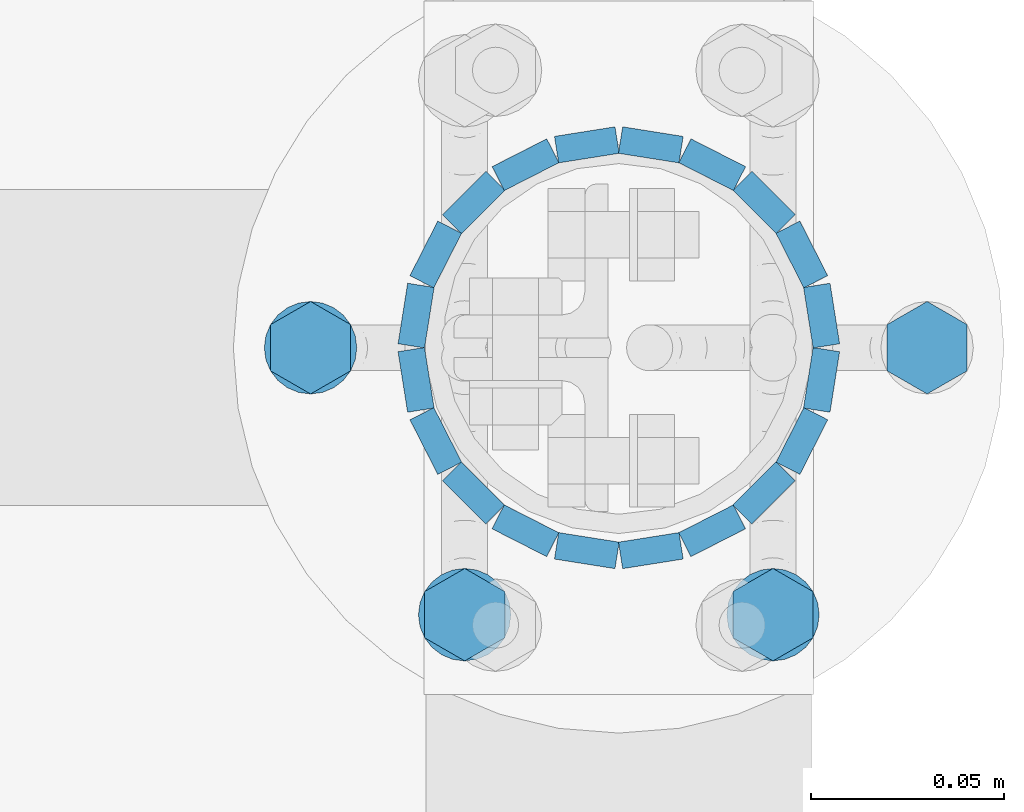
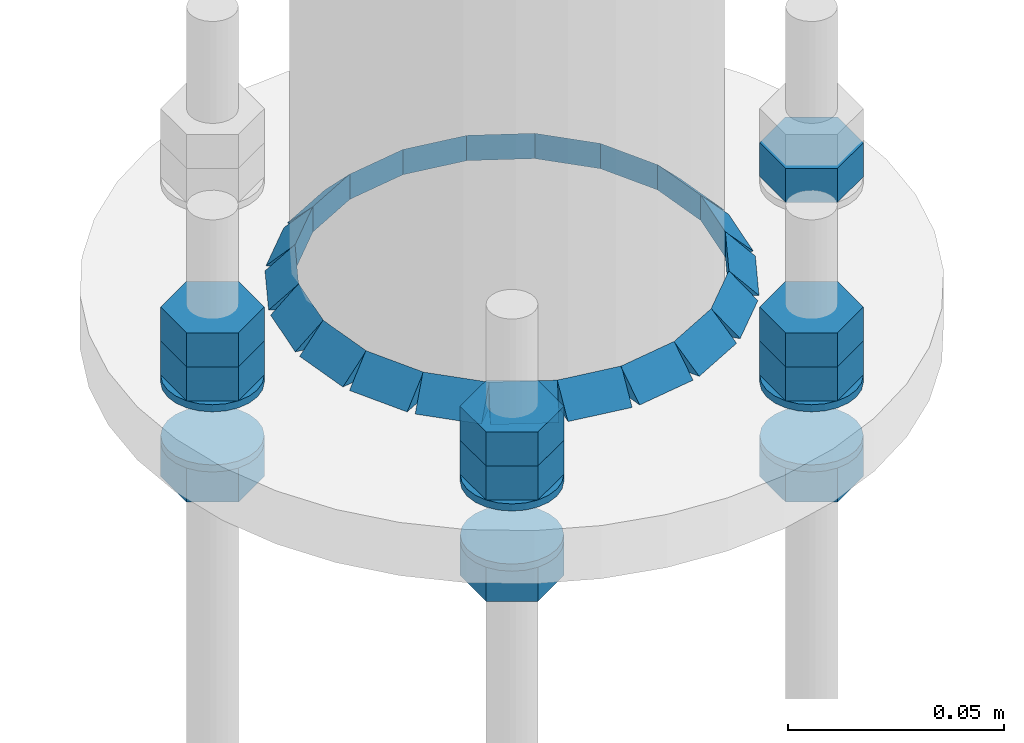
# One storey, part 20 of 84: 40 fasteners, 16 mechanical fasteners.
"""IFC4 building model written with IfcOpenShell, lengths in metres."""

from ifc_helpers import new_model, si_unit, frame, origin_with_axes, place, context, project, spatial, polyline, outline, extrude, type_object, element, save


model = new_model("IFC4")

# Units and contexts
model_context = context("Model", 3, precision=1e-05, world=origin_with_axes())
ifc_project = project(units=[si_unit("LENGTHUNIT", "METRE"), si_unit("AREAUNIT", "SQUARE_METRE"), si_unit("VOLUMEUNIT", "CUBIC_METRE"), si_unit("MASSUNIT", "GRAM", prefix="KILO"), si_unit("TIMEUNIT", "SECOND"), si_unit("PLANEANGLEUNIT", "RADIAN"), si_unit("SOLIDANGLEUNIT", "STERADIAN"), si_unit("THERMODYNAMICTEMPERATUREUNIT", "DEGREE_CELSIUS")], contexts=[model_context])

# Site, building, storey
placement_1 = place(None, origin_with_axes())
site = spatial("IfcSite", under=ifc_project, at=placement_1, Name="Italia", CompositionType="ELEMENT")
building = spatial("IfcBuilding", under=site, at=placement_1, Name="Tettoia", CompositionType="ELEMENT")
storey_placement = place(None, frame((0.0, 0.0, 4.199999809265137), z_axis=(0.0, 0.0, 1.0), x_axis=(1.0, 0.0, 0.0)))
storey = spatial("IfcBuildingStorey", under=building, at=storey_placement, Name="Storey 1", CompositionType="ELEMENT", Elevation=4.199999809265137)

# Fasteners
fastener_type_1 = type_object("IfcFastenerType", Name="Collegamento -002_0102", PredefinedType="WELD")
placement_2 = place(placement_1, origin_with_axes())
fastener_1_placement = place(placement_2, origin_with_axes())
element("IfcFastener", 1, at=fastener_1_placement, inside=storey, type_object=fastener_type_1, Name="Collegamento -002_0102", context=model_context, shape_type="SweptSolid", body=[
    extrude(outline(polyline([(0.0, 0.0), (0.00695801, 0.00717354), (0.00695801, 0.0), (0.0, 0.0)])), frame((11.3067, 2.05484, 4.01495), z_axis=(-0.987689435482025, 0.156427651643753, 0.0), x_axis=(-0.156427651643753, -0.987689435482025, 0.0)), (0.0, 0.0, 1.0), 0.0158999),
])
fastener_type_2 = type_object("IfcFastenerType", Name="Collegamento -002_0102", PredefinedType="WELD")
fastener_2_placement = place(placement_2, origin_with_axes())
element("IfcFastener", 2, at=fastener_2_placement, inside=storey, type_object=fastener_type_2, Name="Collegamento -002_0102", context=model_context, shape_type="SweptSolid", body=[
    extrude(outline(polyline([(0.0, 0.0), (0.00695801, 0.00717354), (0.00695801, 0.0), (0.0, 0.0)])), frame((11.3229, 2.04699, 4.01495), z_axis=(-0.891006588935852, 0.453990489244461, 0.0), x_axis=(-0.453990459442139, -0.891006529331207, 0.0)), (0.0, 0.0, 1.0), 0.0158998),
])
fastener_type_3 = type_object("IfcFastenerType", Name="Collegamento -002_0102", PredefinedType="WELD")
fastener_3_placement = place(placement_2, origin_with_axes())
element("IfcFastener", 3, at=fastener_3_placement, inside=storey, type_object=fastener_type_3, Name="Collegamento -002_0102", context=model_context, shape_type="SweptSolid", body=[
    extrude(outline(polyline([(0.0, 0.0), (0.00695801, 0.00717354), (0.00695801, 0.0), (0.0, 0.0)])), frame((11.3358, 2.03453, 4.01495), z_axis=(-0.707099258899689, 0.707114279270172, 0.0), x_axis=(-0.707114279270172, -0.707099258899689, 0.0)), (0.0, 0.0, 1.0), 0.0159),
])
fastener_type_4 = type_object("IfcFastenerType", Name="Collegamento -002_0102", PredefinedType="WELD")
fastener_4_placement = place(placement_2, origin_with_axes())
element("IfcFastener", 4, at=fastener_4_placement, inside=storey, type_object=fastener_type_4, Name="Collegamento -002_0102", context=model_context, shape_type="SweptSolid", body=[
    extrude(outline(polyline([(0.0, 0.0), (0.00695896, 0.00717354), (0.00695896, 0.0), (0.0, 0.0)])), frame((11.3442, 2.0187, 4.01495), z_axis=(-0.453990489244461, 0.891006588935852, 0.0), x_axis=(-0.891006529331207, -0.453990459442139, 0.0)), (0.0, 0.0, 1.0), 0.0158998),
])
fastener_type_5 = type_object("IfcFastenerType", Name="Collegamento -002_0102", PredefinedType="WELD")
fastener_5_placement = place(placement_2, origin_with_axes())
element("IfcFastener", 5, at=fastener_5_placement, inside=storey, type_object=fastener_type_5, Name="Collegamento -002_0102", context=model_context, shape_type="SweptSolid", body=[
    extrude(outline(polyline([(0.0, 0.0), (0.00695896, 0.00717354), (0.00695896, 0.0), (0.0, 0.0)])), frame((11.3473, 2.00103, 4.01495), z_axis=(-0.1564861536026, 0.987680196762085, 0.0), x_axis=(-0.98768013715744, -0.156486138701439, 0.0)), (0.0, 0.0, 1.0), 0.0159),
])
fastener_type_6 = type_object("IfcFastenerType", Name="Collegamento -002_0102", PredefinedType="WELD")
fastener_6_placement = place(placement_2, origin_with_axes())
element("IfcFastener", 6, at=fastener_6_placement, inside=storey, type_object=fastener_type_6, Name="Collegamento -002_0102", context=model_context, shape_type="SweptSolid", body=[
    extrude(outline(polyline([(0.0, 0.0), (0.00695801, 0.00717354), (0.00695801, 0.0), (0.0, 0.0)])), frame((11.3448, 1.98326, 4.01495), z_axis=(0.1564861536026, 0.987680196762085, 0.0), x_axis=(-0.98768013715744, 0.156486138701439, 0.0)), (0.0, 0.0, 1.0), 0.0159),
])
fastener_type_7 = type_object("IfcFastenerType", Name="Collegamento -002_0102", PredefinedType="WELD")
fastener_7_placement = place(placement_2, origin_with_axes())
element("IfcFastener", 7, at=fastener_7_placement, inside=storey, type_object=fastener_type_7, Name="Collegamento -002_0102", context=model_context, shape_type="SweptSolid", body=[
    extrude(outline(polyline([(0.0, 0.0), (0.00695801, 0.00717354), (0.00695801, 0.0), (0.0, 0.0)])), frame((11.337, 1.96714, 4.01495), z_axis=(0.453990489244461, 0.891006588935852, 0.0), x_axis=(-0.891006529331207, 0.453990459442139, 0.0)), (0.0, 0.0, 1.0), 0.0158998),
])
fastener_type_8 = type_object("IfcFastenerType", Name="Collegamento -002_0102", PredefinedType="WELD")
fastener_8_placement = place(placement_2, origin_with_axes())
element("IfcFastener", 8, at=fastener_8_placement, inside=storey, type_object=fastener_type_8, Name="Collegamento -002_0102", context=model_context, shape_type="SweptSolid", body=[
    extrude(outline(polyline([(0.0, 0.0), (0.00695801, 0.00717354), (0.00695801, 0.0), (0.0, 0.0)])), frame((11.3245, 1.95422, 4.01495), z_axis=(0.70710301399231, 0.707110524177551, 0.0), x_axis=(-0.707110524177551, 0.70710301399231, 0.0)), (0.0, 0.0, 1.0), 0.0158999),
])
fastener_type_9 = type_object("IfcFastenerType", Name="Collegamento -002_0102", PredefinedType="WELD")
fastener_9_placement = place(placement_2, origin_with_axes())
element("IfcFastener", 9, at=fastener_9_placement, inside=storey, type_object=fastener_type_9, Name="Collegamento -002_0102", context=model_context, shape_type="SweptSolid", body=[
    extrude(outline(polyline([(0.0, 0.0), (0.00695896, 0.00717354), (0.00695896, 0.0), (0.0, 0.0)])), frame((11.3087, 1.94579, 4.01495), z_axis=(0.891009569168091, 0.453984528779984, 0.0), x_axis=(-0.453984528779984, 0.891009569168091, 0.0)), (0.0, 0.0, 1.0), 0.0158998),
])
fastener_type_10 = type_object("IfcFastenerType", Name="Collegamento -002_0102", PredefinedType="WELD")
fastener_10_placement = place(placement_2, origin_with_axes())
element("IfcFastener", 10, at=fastener_10_placement, inside=storey, type_object=fastener_type_10, Name="Collegamento -002_0102", context=model_context, shape_type="SweptSolid", body=[
    extrude(outline(polyline([(0.0, 0.0), (0.00695801, 0.00717354), (0.00695801, 0.0), (0.0, 0.0)])), frame((11.291, 1.94267, 4.01495), z_axis=(0.987688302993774, 0.156434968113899, 0.0), x_axis=(-0.156434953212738, 0.98768824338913, 0.0)), (0.0, 0.0, 1.0), 0.0158999),
])
fastener_type_11 = type_object("IfcFastenerType", Name="Collegamento -002_0102", PredefinedType="WELD")
fastener_11_placement = place(placement_2, origin_with_axes())
element("IfcFastener", 11, at=fastener_11_placement, inside=storey, type_object=fastener_type_11, Name="Collegamento -002_0102", context=model_context, shape_type="SweptSolid", body=[
    extrude(outline(polyline([(0.0, 0.0), (0.00695801, 0.00717354), (0.00695801, 0.0), (0.0, 0.0)])), frame((11.2733, 1.94516, 4.01495), z_axis=(0.987688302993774, -0.156434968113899, 0.0), x_axis=(0.156434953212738, 0.98768824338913, 0.0)), (0.0, 0.0, 1.0), 0.0158999),
])
fastener_type_12 = type_object("IfcFastenerType", Name="Collegamento -002_0102", PredefinedType="WELD")
fastener_12_placement = place(placement_2, origin_with_axes())
element("IfcFastener", 12, at=fastener_12_placement, inside=storey, type_object=fastener_type_12, Name="Collegamento -002_0102", context=model_context, shape_type="SweptSolid", body=[
    extrude(outline(polyline([(0.0, 0.0), (0.00695801, 0.00717354), (0.00695801, 0.0), (0.0, 0.0)])), frame((11.2571, 1.95301, 4.01495), z_axis=(0.891009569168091, -0.453984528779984, 0.0), x_axis=(0.453984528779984, 0.891009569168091, 0.0)), (0.0, 0.0, 1.0), 0.0158998),
])
fastener_type_13 = type_object("IfcFastenerType", Name="Collegamento -002_0102", PredefinedType="WELD")
fastener_13_placement = place(placement_2, origin_with_axes())
element("IfcFastener", 13, at=fastener_13_placement, inside=storey, type_object=fastener_type_13, Name="Collegamento -002_0102", context=model_context, shape_type="SweptSolid", body=[
    extrude(outline(polyline([(0.0, 0.0), (0.00695801, 0.00717354), (0.00695801, 0.0), (0.0, 0.0)])), frame((11.2442, 1.96547, 4.01495), z_axis=(0.70710301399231, -0.707110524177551, 0.0), x_axis=(0.707110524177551, 0.70710301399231, 0.0)), (0.0, 0.0, 1.0), 0.0158999),
])
fastener_type_14 = type_object("IfcFastenerType", Name="Collegamento -002_0102", PredefinedType="WELD")
fastener_14_placement = place(placement_2, origin_with_axes())
element("IfcFastener", 14, at=fastener_14_placement, inside=storey, type_object=fastener_type_14, Name="Collegamento -002_0102", context=model_context, shape_type="SweptSolid", body=[
    extrude(outline(polyline([(0.0, 0.0), (0.00695705, 0.00717354), (0.00695705, 0.0), (0.0, 0.0)])), frame((11.2358, 1.9813, 4.01495), z_axis=(0.453990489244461, -0.891006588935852, 0.0), x_axis=(0.891006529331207, 0.453990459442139, 0.0)), (0.0, 0.0, 1.0), 0.0158998),
])
fastener_type_15 = type_object("IfcFastenerType", Name="Collegamento -002_0102", PredefinedType="WELD")
fastener_15_placement = place(placement_2, origin_with_axes())
element("IfcFastener", 15, at=fastener_15_placement, inside=storey, type_object=fastener_type_15, Name="Collegamento -002_0102", context=model_context, shape_type="SweptSolid", body=[
    extrude(outline(polyline([(0.0, 0.0), (0.00695896, 0.00717354), (0.00695896, 0.0), (0.0, 0.0)])), frame((11.2327, 1.99897, 4.01495), z_axis=(0.1564861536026, -0.987680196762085, 0.0), x_axis=(0.98768013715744, 0.156486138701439, 0.0)), (0.0, 0.0, 1.0), 0.0159),
])
fastener_type_16 = type_object("IfcFastenerType", Name="Collegamento -002_0102", PredefinedType="WELD")
fastener_16_placement = place(placement_2, origin_with_axes())
element("IfcFastener", 16, at=fastener_16_placement, inside=storey, type_object=fastener_type_16, Name="Collegamento -002_0102", context=model_context, shape_type="SweptSolid", body=[
    extrude(outline(polyline([(0.0, 0.0), (0.00695801, 0.00717354), (0.00695801, 0.0), (0.0, 0.0)])), frame((11.2352, 2.01674, 4.01495), z_axis=(-0.1564861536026, -0.987680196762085, 0.0), x_axis=(0.98768013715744, -0.156486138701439, 0.0)), (0.0, 0.0, 1.0), 0.0159),
])
fastener_type_17 = type_object("IfcFastenerType", Name="Collegamento -002_0102", PredefinedType="WELD")
fastener_17_placement = place(placement_2, origin_with_axes())
element("IfcFastener", 17, at=fastener_17_placement, inside=storey, type_object=fastener_type_17, Name="Collegamento -002_0102", context=model_context, shape_type="SweptSolid", body=[
    extrude(outline(polyline([(0.0, 0.0), (0.00695801, 0.00717354), (0.00695801, 0.0), (0.0, 0.0)])), frame((11.243, 2.03286, 4.01495), z_axis=(-0.453990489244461, -0.891006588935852, 0.0), x_axis=(0.891006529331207, -0.453990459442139, 0.0)), (0.0, 0.0, 1.0), 0.0158998),
])
fastener_type_18 = type_object("IfcFastenerType", Name="Collegamento -002_0102", PredefinedType="WELD")
fastener_18_placement = place(placement_2, origin_with_axes())
element("IfcFastener", 18, at=fastener_18_placement, inside=storey, type_object=fastener_type_18, Name="Collegamento -002_0102", context=model_context, shape_type="SweptSolid", body=[
    extrude(outline(polyline([(0.0, 0.0), (0.00695848, 0.00717354), (0.00695848, 0.0), (0.0, 0.0)])), frame((11.2555, 2.04578, 4.01495), z_axis=(-0.707099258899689, -0.707114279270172, 0.0), x_axis=(0.707114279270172, -0.707099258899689, 0.0)), (0.0, 0.0, 1.0), 0.0159),
])
fastener_type_19 = type_object("IfcFastenerType", Name="Collegamento -002_0102", PredefinedType="WELD")
fastener_19_placement = place(placement_2, origin_with_axes())
element("IfcFastener", 19, at=fastener_19_placement, inside=storey, type_object=fastener_type_19, Name="Collegamento -002_0102", context=model_context, shape_type="SweptSolid", body=[
    extrude(outline(polyline([(0.0, 0.0), (0.00695848, 0.00717354), (0.00695848, 0.0), (0.0, 0.0)])), frame((11.2713, 2.05421, 4.01495), z_axis=(-0.891006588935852, -0.453990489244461, 0.0), x_axis=(0.453990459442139, -0.891006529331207, 0.0)), (0.0, 0.0, 1.0), 0.0158998),
])
fastener_type_20 = type_object("IfcFastenerType", Name="Collegamento -002_0102", PredefinedType="WELD")
fastener_20_placement = place(placement_2, origin_with_axes())
element("IfcFastener", 20, at=fastener_20_placement, inside=storey, type_object=fastener_type_20, Name="Collegamento -002_0102", context=model_context, shape_type="SweptSolid", body=[
    extrude(outline(polyline([(0.0, 0.0), (0.00695801, 0.00717354), (0.00695801, 0.0), (0.0, 0.0)])), frame((11.289, 2.05733, 4.01495), z_axis=(-0.987689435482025, -0.156427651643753, 0.0), x_axis=(0.156427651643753, -0.987689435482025, 0.0)), (0.0, 0.0, 1.0), 0.0158999),
])
fastener_type_21 = type_object("IfcFastenerType", Name="Collegamento -002_0102", PredefinedType="WELD")
fastener_21_placement = place(placement_2, origin_with_axes())
element("IfcFastener", 21, at=fastener_21_placement, inside=storey, type_object=fastener_type_21, Name="Collegamento -002_0102", context=model_context, shape_type="SweptSolid", body=[
    extrude(outline(polyline([(0.0, 0.0), (0.00695801, 0.00717354), (0.00695801, 0.0), (0.0, 0.0)])), frame((11.3067, 2.05484, 4.01495), z_axis=(-0.987689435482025, 0.156427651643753, 0.0), x_axis=(-0.156427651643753, -0.987689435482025, 0.0)), (0.0, 0.0, 1.0), 0.0158999),
])
fastener_type_22 = type_object("IfcFastenerType", Name="Collegamento -002_0102", PredefinedType="WELD")
fastener_22_placement = place(placement_2, origin_with_axes())
element("IfcFastener", 22, at=fastener_22_placement, inside=storey, type_object=fastener_type_22, Name="Collegamento -002_0102", context=model_context, shape_type="SweptSolid", body=[
    extrude(outline(polyline([(0.0, 0.0), (0.00695801, 0.00717354), (0.00695801, 0.0), (0.0, 0.0)])), frame((11.3229, 2.04699, 4.01495), z_axis=(-0.891006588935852, 0.453990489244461, 0.0), x_axis=(-0.453990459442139, -0.891006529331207, 0.0)), (0.0, 0.0, 1.0), 0.0158998),
])
fastener_type_23 = type_object("IfcFastenerType", Name="Collegamento -002_0102", PredefinedType="WELD")
fastener_23_placement = place(placement_2, origin_with_axes())
element("IfcFastener", 23, at=fastener_23_placement, inside=storey, type_object=fastener_type_23, Name="Collegamento -002_0102", context=model_context, shape_type="SweptSolid", body=[
    extrude(outline(polyline([(0.0, 0.0), (0.00695801, 0.00717354), (0.00695801, 0.0), (0.0, 0.0)])), frame((11.3358, 2.03453, 4.01495), z_axis=(-0.707099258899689, 0.707114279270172, 0.0), x_axis=(-0.707114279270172, -0.707099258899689, 0.0)), (0.0, 0.0, 1.0), 0.0159),
])
fastener_type_24 = type_object("IfcFastenerType", Name="Collegamento -002_0102", PredefinedType="WELD")
fastener_24_placement = place(placement_2, origin_with_axes())
element("IfcFastener", 24, at=fastener_24_placement, inside=storey, type_object=fastener_type_24, Name="Collegamento -002_0102", context=model_context, shape_type="SweptSolid", body=[
    extrude(outline(polyline([(0.0, 0.0), (0.00695896, 0.00717354), (0.00695896, 0.0), (0.0, 0.0)])), frame((11.3442, 2.0187, 4.01495), z_axis=(-0.453990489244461, 0.891006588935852, 0.0), x_axis=(-0.891006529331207, -0.453990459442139, 0.0)), (0.0, 0.0, 1.0), 0.0158998),
])
fastener_type_25 = type_object("IfcFastenerType", Name="Collegamento -002_0102", PredefinedType="WELD")
fastener_25_placement = place(placement_2, origin_with_axes())
element("IfcFastener", 25, at=fastener_25_placement, inside=storey, type_object=fastener_type_25, Name="Collegamento -002_0102", context=model_context, shape_type="SweptSolid", body=[
    extrude(outline(polyline([(0.0, 0.0), (0.00695896, 0.00717354), (0.00695896, 0.0), (0.0, 0.0)])), frame((11.3473, 2.00103, 4.01495), z_axis=(-0.1564861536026, 0.987680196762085, 0.0), x_axis=(-0.98768013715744, -0.156486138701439, 0.0)), (0.0, 0.0, 1.0), 0.0159),
])
fastener_type_26 = type_object("IfcFastenerType", Name="Collegamento -002_0102", PredefinedType="WELD")
fastener_26_placement = place(placement_2, origin_with_axes())
element("IfcFastener", 26, at=fastener_26_placement, inside=storey, type_object=fastener_type_26, Name="Collegamento -002_0102", context=model_context, shape_type="SweptSolid", body=[
    extrude(outline(polyline([(0.0, 0.0), (0.00695801, 0.00717354), (0.00695801, 0.0), (0.0, 0.0)])), frame((11.3448, 1.98326, 4.01495), z_axis=(0.1564861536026, 0.987680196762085, 0.0), x_axis=(-0.98768013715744, 0.156486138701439, 0.0)), (0.0, 0.0, 1.0), 0.0159),
])
fastener_type_27 = type_object("IfcFastenerType", Name="Collegamento -002_0102", PredefinedType="WELD")
fastener_27_placement = place(placement_2, origin_with_axes())
element("IfcFastener", 27, at=fastener_27_placement, inside=storey, type_object=fastener_type_27, Name="Collegamento -002_0102", context=model_context, shape_type="SweptSolid", body=[
    extrude(outline(polyline([(0.0, 0.0), (0.00695801, 0.00717354), (0.00695801, 0.0), (0.0, 0.0)])), frame((11.337, 1.96714, 4.01495), z_axis=(0.453990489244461, 0.891006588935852, 0.0), x_axis=(-0.891006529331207, 0.453990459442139, 0.0)), (0.0, 0.0, 1.0), 0.0158998),
])
fastener_type_28 = type_object("IfcFastenerType", Name="Collegamento -002_0102", PredefinedType="WELD")
fastener_28_placement = place(placement_2, origin_with_axes())
element("IfcFastener", 28, at=fastener_28_placement, inside=storey, type_object=fastener_type_28, Name="Collegamento -002_0102", context=model_context, shape_type="SweptSolid", body=[
    extrude(outline(polyline([(0.0, 0.0), (0.00695801, 0.00717354), (0.00695801, 0.0), (0.0, 0.0)])), frame((11.3245, 1.95422, 4.01495), z_axis=(0.70710301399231, 0.707110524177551, 0.0), x_axis=(-0.707110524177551, 0.70710301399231, 0.0)), (0.0, 0.0, 1.0), 0.0158999),
])
fastener_type_29 = type_object("IfcFastenerType", Name="Collegamento -002_0102", PredefinedType="WELD")
fastener_29_placement = place(placement_2, origin_with_axes())
element("IfcFastener", 29, at=fastener_29_placement, inside=storey, type_object=fastener_type_29, Name="Collegamento -002_0102", context=model_context, shape_type="SweptSolid", body=[
    extrude(outline(polyline([(0.0, 0.0), (0.00695896, 0.00717354), (0.00695896, 0.0), (0.0, 0.0)])), frame((11.3087, 1.94579, 4.01495), z_axis=(0.891009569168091, 0.453984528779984, 0.0), x_axis=(-0.453984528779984, 0.891009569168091, 0.0)), (0.0, 0.0, 1.0), 0.0158998),
])
fastener_type_30 = type_object("IfcFastenerType", Name="Collegamento -002_0102", PredefinedType="WELD")
fastener_30_placement = place(placement_2, origin_with_axes())
element("IfcFastener", 30, at=fastener_30_placement, inside=storey, type_object=fastener_type_30, Name="Collegamento -002_0102", context=model_context, shape_type="SweptSolid", body=[
    extrude(outline(polyline([(0.0, 0.0), (0.00695801, 0.00717354), (0.00695801, 0.0), (0.0, 0.0)])), frame((11.291, 1.94267, 4.01495), z_axis=(0.987688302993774, 0.156434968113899, 0.0), x_axis=(-0.156434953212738, 0.98768824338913, 0.0)), (0.0, 0.0, 1.0), 0.0158999),
])
fastener_type_31 = type_object("IfcFastenerType", Name="Collegamento -002_0102", PredefinedType="WELD")
fastener_31_placement = place(placement_2, origin_with_axes())
element("IfcFastener", 31, at=fastener_31_placement, inside=storey, type_object=fastener_type_31, Name="Collegamento -002_0102", context=model_context, shape_type="SweptSolid", body=[
    extrude(outline(polyline([(0.0, 0.0), (0.00695801, 0.00717354), (0.00695801, 0.0), (0.0, 0.0)])), frame((11.2733, 1.94516, 4.01495), z_axis=(0.987688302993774, -0.156434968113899, 0.0), x_axis=(0.156434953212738, 0.98768824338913, 0.0)), (0.0, 0.0, 1.0), 0.0158999),
])
fastener_type_32 = type_object("IfcFastenerType", Name="Collegamento -002_0102", PredefinedType="WELD")
fastener_32_placement = place(placement_2, origin_with_axes())
element("IfcFastener", 32, at=fastener_32_placement, inside=storey, type_object=fastener_type_32, Name="Collegamento -002_0102", context=model_context, shape_type="SweptSolid", body=[
    extrude(outline(polyline([(0.0, 0.0), (0.00695801, 0.00717354), (0.00695801, 0.0), (0.0, 0.0)])), frame((11.2571, 1.95301, 4.01495), z_axis=(0.891009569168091, -0.453984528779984, 0.0), x_axis=(0.453984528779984, 0.891009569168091, 0.0)), (0.0, 0.0, 1.0), 0.0158998),
])
fastener_type_33 = type_object("IfcFastenerType", Name="Collegamento -002_0102", PredefinedType="WELD")
fastener_33_placement = place(placement_2, origin_with_axes())
element("IfcFastener", 33, at=fastener_33_placement, inside=storey, type_object=fastener_type_33, Name="Collegamento -002_0102", context=model_context, shape_type="SweptSolid", body=[
    extrude(outline(polyline([(0.0, 0.0), (0.00695801, 0.00717354), (0.00695801, 0.0), (0.0, 0.0)])), frame((11.2442, 1.96547, 4.01495), z_axis=(0.70710301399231, -0.707110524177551, 0.0), x_axis=(0.707110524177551, 0.70710301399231, 0.0)), (0.0, 0.0, 1.0), 0.0158999),
])
fastener_type_34 = type_object("IfcFastenerType", Name="Collegamento -002_0102", PredefinedType="WELD")
fastener_34_placement = place(placement_2, origin_with_axes())
element("IfcFastener", 34, at=fastener_34_placement, inside=storey, type_object=fastener_type_34, Name="Collegamento -002_0102", context=model_context, shape_type="SweptSolid", body=[
    extrude(outline(polyline([(0.0, 0.0), (0.00695705, 0.00717354), (0.00695705, 0.0), (0.0, 0.0)])), frame((11.2358, 1.9813, 4.01495), z_axis=(0.453990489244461, -0.891006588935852, 0.0), x_axis=(0.891006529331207, 0.453990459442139, 0.0)), (0.0, 0.0, 1.0), 0.0158998),
])
fastener_type_35 = type_object("IfcFastenerType", Name="Collegamento -002_0102", PredefinedType="WELD")
fastener_35_placement = place(placement_2, origin_with_axes())
element("IfcFastener", 35, at=fastener_35_placement, inside=storey, type_object=fastener_type_35, Name="Collegamento -002_0102", context=model_context, shape_type="SweptSolid", body=[
    extrude(outline(polyline([(0.0, 0.0), (0.00695896, 0.00717354), (0.00695896, 0.0), (0.0, 0.0)])), frame((11.2327, 1.99897, 4.01495), z_axis=(0.1564861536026, -0.987680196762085, 0.0), x_axis=(0.98768013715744, 0.156486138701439, 0.0)), (0.0, 0.0, 1.0), 0.0159),
])
fastener_type_36 = type_object("IfcFastenerType", Name="Collegamento -002_0102", PredefinedType="WELD")
fastener_36_placement = place(placement_2, origin_with_axes())
element("IfcFastener", 36, at=fastener_36_placement, inside=storey, type_object=fastener_type_36, Name="Collegamento -002_0102", context=model_context, shape_type="SweptSolid", body=[
    extrude(outline(polyline([(0.0, 0.0), (0.00695801, 0.00717354), (0.00695801, 0.0), (0.0, 0.0)])), frame((11.2352, 2.01674, 4.01495), z_axis=(-0.1564861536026, -0.987680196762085, 0.0), x_axis=(0.98768013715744, -0.156486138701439, 0.0)), (0.0, 0.0, 1.0), 0.0159),
])
fastener_type_37 = type_object("IfcFastenerType", Name="Collegamento -002_0102", PredefinedType="WELD")
fastener_37_placement = place(placement_2, origin_with_axes())
element("IfcFastener", 37, at=fastener_37_placement, inside=storey, type_object=fastener_type_37, Name="Collegamento -002_0102", context=model_context, shape_type="SweptSolid", body=[
    extrude(outline(polyline([(0.0, 0.0), (0.00695801, 0.00717354), (0.00695801, 0.0), (0.0, 0.0)])), frame((11.243, 2.03286, 4.01495), z_axis=(-0.453990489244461, -0.891006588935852, 0.0), x_axis=(0.891006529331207, -0.453990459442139, 0.0)), (0.0, 0.0, 1.0), 0.0158998),
])
fastener_type_38 = type_object("IfcFastenerType", Name="Collegamento -002_0102", PredefinedType="WELD")
fastener_38_placement = place(placement_2, origin_with_axes())
element("IfcFastener", 38, at=fastener_38_placement, inside=storey, type_object=fastener_type_38, Name="Collegamento -002_0102", context=model_context, shape_type="SweptSolid", body=[
    extrude(outline(polyline([(0.0, 0.0), (0.00695848, 0.00717354), (0.00695848, 0.0), (0.0, 0.0)])), frame((11.2555, 2.04578, 4.01495), z_axis=(-0.707099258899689, -0.707114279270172, 0.0), x_axis=(0.707114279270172, -0.707099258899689, 0.0)), (0.0, 0.0, 1.0), 0.0159),
])
fastener_type_39 = type_object("IfcFastenerType", Name="Collegamento -002_0102", PredefinedType="WELD")
fastener_39_placement = place(placement_2, origin_with_axes())
element("IfcFastener", 39, at=fastener_39_placement, inside=storey, type_object=fastener_type_39, Name="Collegamento -002_0102", context=model_context, shape_type="SweptSolid", body=[
    extrude(outline(polyline([(0.0, 0.0), (0.00695848, 0.00717354), (0.00695848, 0.0), (0.0, 0.0)])), frame((11.2713, 2.05421, 4.01495), z_axis=(-0.891006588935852, -0.453990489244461, 0.0), x_axis=(0.453990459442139, -0.891006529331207, 0.0)), (0.0, 0.0, 1.0), 0.0158998),
])
fastener_type_40 = type_object("IfcFastenerType", Name="Collegamento -002_0102", PredefinedType="WELD")
fastener_40_placement = place(placement_2, origin_with_axes())
element("IfcFastener", 40, at=fastener_40_placement, inside=storey, type_object=fastener_type_40, Name="Collegamento -002_0102", context=model_context, shape_type="SweptSolid", body=[
    extrude(outline(polyline([(0.0, 0.0), (0.00695801, 0.00717354), (0.00695801, 0.0), (0.0, 0.0)])), frame((11.289, 2.05733, 4.01495), z_axis=(-0.987689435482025, -0.156427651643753, 0.0), x_axis=(0.156427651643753, -0.987689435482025, 0.0)), (0.0, 0.0, 1.0), 0.0158999),
])

# Mechanical fasteners
mechanical_fastener_type_1 = type_object("IfcMechanicalFastenerType", Name="Collegamento -002_0102", PredefinedType="BOLT")
mechanical_fastener_1_placement = place(placement_2, origin_with_axes())
element("IfcMechanicalFastener", 41, at=mechanical_fastener_1_placement, inside=storey, type_object=mechanical_fastener_type_1, Name="Collegamento -002_0102", NominalDiameter=0.0119999, context=model_context, shape_type="SweptSolid", body=[
    extrude(outline(polyline([(0.0, 0.0), (-0.0120001, 0.0), (-0.018, 0.0103922), (-0.0120001, 0.0207844), (0.0, 0.0207844), (0.00600004, 0.0103922), (0.0, 0.0)])), frame((11.2204, 2.006, 4.017), z_axis=(0.0, 0.0, 1.0), x_axis=(0.0, 1.0, 0.0)), (0.0, 0.0, 1.0), 0.00959969),
])
mechanical_fastener_type_2 = type_object("IfcMechanicalFastenerType", Name="Collegamento -002_0102", PredefinedType="BOLT")
mechanical_fastener_2_placement = place(placement_2, origin_with_axes())
element("IfcMechanicalFastener", 42, at=mechanical_fastener_2_placement, inside=storey, type_object=mechanical_fastener_type_2, Name="Collegamento -002_0102", NominalDiameter=0.0119999, context=model_context, shape_type="SweptSolid", body=[
    extrude(outline(polyline([(0.0, 0.0), (-0.0120001, 0.0), (-0.018, 0.0103922), (-0.0120001, 0.0207844), (0.0, 0.0207844), (0.00600004, 0.0103922), (0.0, 0.0)])), frame((11.2204, 2.006, 4.0266), z_axis=(0.0, 0.0, 1.0), x_axis=(0.0, 1.0, 0.0)), (0.0, 0.0, 1.0), 0.00960016),
])
mechanical_fastener_type_3 = type_object("IfcMechanicalFastenerType", Name="Collegamento -002_0102", PredefinedType="BOLT")
mechanical_fastener_3_placement = place(placement_2, origin_with_axes())
element("IfcMechanicalFastener", 43, at=mechanical_fastener_3_placement, inside=storey, type_object=mechanical_fastener_type_3, Name="Collegamento -002_0102", NominalDiameter=0.0119999, context=model_context, shape_type="SweptSolid", body=[
    extrude(outline(polyline([(0.0, 0.0), (-0.0120001, 0.0), (-0.018, 0.0103922), (-0.0120001, 0.0207844), (0.0, 0.0207844), (0.00600004, 0.0103922), (0.0, 0.0)])), frame((11.2204, 2.006, 3.9884), z_axis=(0.0, 0.0, 1.0), x_axis=(0.0, 1.0, 0.0)), (0.0, 0.0, 1.0), 0.00959992),
])
mechanical_fastener_type_4 = type_object("IfcMechanicalFastenerType", Name="Collegamento -002_0102", PredefinedType="BOLT")
mechanical_fastener_4_placement = place(placement_2, origin_with_axes())
element("IfcMechanicalFastener", 44, at=mechanical_fastener_4_placement, inside=storey, type_object=mechanical_fastener_type_4, Name="Collegamento -002_0102", NominalDiameter=0.024, context=model_context, shape_type="SweptSolid", body=[
    extrude(outline(polyline([(0.0, 0.0), (-0.000408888, -0.00310612), (-0.00160789, -0.00599957), (-0.00351477, -0.00848484), (-0.00600004, -0.0103922), (-0.00889421, -0.011591), (-0.0120001, -0.0120001), (-0.015106, -0.011591), (-0.0180001, -0.0103922), (-0.0204854, -0.00848484), (-0.0223924, -0.00599957), (-0.0235912, -0.00310612), (-0.024, 0.0), (-0.0235912, 0.00310612), (-0.0223924, 0.00599957), (-0.0204854, 0.00848484), (-0.0180001, 0.0103922), (-0.015106, 0.011591), (-0.0120001, 0.0120001), (-0.00889421, 0.011591), (-0.00600004, 0.0103922), (-0.00351477, 0.00848484), (-0.00160789, 0.00599957), (-0.000408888, 0.00310612), (0.0, 0.0)])), frame((11.21, 2.012, 4.015), z_axis=(0.0, 0.0, 1.0), x_axis=(0.0, 1.0, 0.0)), (0.0, 0.0, 1.0), 0.00200033),
])
mechanical_fastener_type_5 = type_object("IfcMechanicalFastenerType", Name="Collegamento -002_0102", PredefinedType="BOLT")
mechanical_fastener_5_placement = place(placement_2, origin_with_axes())
element("IfcMechanicalFastener", 45, at=mechanical_fastener_5_placement, inside=storey, type_object=mechanical_fastener_type_5, Name="Collegamento -002_0102", NominalDiameter=0.024, context=model_context, shape_type="SweptSolid", body=[
    extrude(outline(polyline([(0.0, 0.0), (-0.000408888, -0.00310612), (-0.00160789, -0.00599957), (-0.00351477, -0.00848484), (-0.00600004, -0.0103922), (-0.00889421, -0.011591), (-0.0120001, -0.0120001), (-0.015106, -0.011591), (-0.0180001, -0.0103922), (-0.0204854, -0.00848484), (-0.0223924, -0.00599957), (-0.0235912, -0.00310612), (-0.024, 0.0), (-0.0235912, 0.00310612), (-0.0223924, 0.00599957), (-0.0204854, 0.00848484), (-0.0180001, 0.0103922), (-0.015106, 0.011591), (-0.0120001, 0.0120001), (-0.00889421, 0.011591), (-0.00600004, 0.0103922), (-0.00351477, 0.00848484), (-0.00160789, 0.00599957), (-0.000408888, 0.00310612), (0.0, 0.0)])), frame((11.21, 2.012, 3.998), z_axis=(0.0, 0.0, 1.0), x_axis=(0.0, 1.0, 0.0)), (0.0, 0.0, 1.0), 0.00200009),
])
mechanical_fastener_type_6 = type_object("IfcMechanicalFastenerType", Name="Collegamento -002_0102", PredefinedType="BOLT")
mechanical_fastener_6_placement = place(placement_2, origin_with_axes())
element("IfcMechanicalFastener", 46, at=mechanical_fastener_6_placement, inside=storey, type_object=mechanical_fastener_type_6, Name="Collegamento -002_0102", NominalDiameter=0.0119999, context=model_context, shape_type="SweptSolid", body=[
    extrude(outline(polyline([(0.0, 0.0), (-0.012, 0.0), (-0.018, 0.0103922), (-0.012, 0.0207844), (0.0, 0.0207844), (0.00600004, 0.0103922), (0.0, 0.0)])), frame((11.2604, 1.93672, 4.017), z_axis=(0.0, 0.0, 1.0), x_axis=(0.0, 1.0, 0.0)), (0.0, 0.0, 1.0), 0.00959969),
])
mechanical_fastener_type_7 = type_object("IfcMechanicalFastenerType", Name="Collegamento -002_0102", PredefinedType="BOLT")
mechanical_fastener_7_placement = place(placement_2, origin_with_axes())
element("IfcMechanicalFastener", 47, at=mechanical_fastener_7_placement, inside=storey, type_object=mechanical_fastener_type_7, Name="Collegamento -002_0102", NominalDiameter=0.0119999, context=model_context, shape_type="SweptSolid", body=[
    extrude(outline(polyline([(0.0, 0.0), (-0.012, 0.0), (-0.018, 0.0103922), (-0.012, 0.0207844), (0.0, 0.0207844), (0.00600004, 0.0103922), (0.0, 0.0)])), frame((11.2604, 1.93672, 4.0266), z_axis=(0.0, 0.0, 1.0), x_axis=(0.0, 1.0, 0.0)), (0.0, 0.0, 1.0), 0.00960016),
])
mechanical_fastener_type_8 = type_object("IfcMechanicalFastenerType", Name="Collegamento -002_0102", PredefinedType="BOLT")
mechanical_fastener_8_placement = place(placement_2, origin_with_axes())
element("IfcMechanicalFastener", 48, at=mechanical_fastener_8_placement, inside=storey, type_object=mechanical_fastener_type_8, Name="Collegamento -002_0102", NominalDiameter=0.0119999, context=model_context, shape_type="SweptSolid", body=[
    extrude(outline(polyline([(0.0, 0.0), (-0.012, 0.0), (-0.018, 0.0103922), (-0.012, 0.0207844), (0.0, 0.0207844), (0.00600004, 0.0103922), (0.0, 0.0)])), frame((11.2604, 1.93672, 3.9884), z_axis=(0.0, 0.0, 1.0), x_axis=(0.0, 1.0, 0.0)), (0.0, 0.0, 1.0), 0.00959992),
])
mechanical_fastener_type_9 = type_object("IfcMechanicalFastenerType", Name="Collegamento -002_0102", PredefinedType="BOLT")
mechanical_fastener_9_placement = place(placement_2, origin_with_axes())
element("IfcMechanicalFastener", 49, at=mechanical_fastener_9_placement, inside=storey, type_object=mechanical_fastener_type_9, Name="Collegamento -002_0102", NominalDiameter=0.024, context=model_context, shape_type="SweptSolid", body=[
    extrude(outline(polyline([(0.0, 0.0), (-0.000408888, -0.00310612), (-0.00160766, -0.00599957), (-0.00351465, -0.00848484), (-0.00599992, -0.0103922), (-0.00889409, -0.011591), (-0.012, -0.0120001), (-0.0151058, -0.011591), (-0.018, -0.0103922), (-0.0204853, -0.00848484), (-0.0223923, -0.00599957), (-0.023591, -0.00310612), (-0.0239999, 0.0), (-0.023591, 0.00310612), (-0.0223923, 0.00599957), (-0.0204853, 0.00848484), (-0.018, 0.0103922), (-0.0151058, 0.011591), (-0.012, 0.0120001), (-0.00889409, 0.011591), (-0.00599992, 0.0103922), (-0.00351465, 0.00848484), (-0.00160766, 0.00599957), (-0.000408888, 0.00310612), (0.0, 0.0)])), frame((11.25, 1.94272, 4.015), z_axis=(0.0, 0.0, 1.0), x_axis=(0.0, 1.0, 0.0)), (0.0, 0.0, 1.0), 0.00200033),
])
mechanical_fastener_type_10 = type_object("IfcMechanicalFastenerType", Name="Collegamento -002_0102", PredefinedType="BOLT")
mechanical_fastener_10_placement = place(placement_2, origin_with_axes())
element("IfcMechanicalFastener", 50, at=mechanical_fastener_10_placement, inside=storey, type_object=mechanical_fastener_type_10, Name="Collegamento -002_0102", NominalDiameter=0.024, context=model_context, shape_type="SweptSolid", body=[
    extrude(outline(polyline([(0.0, 0.0), (-0.000408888, -0.00310612), (-0.00160766, -0.00599957), (-0.00351465, -0.00848484), (-0.00599992, -0.0103922), (-0.00889409, -0.011591), (-0.012, -0.0120001), (-0.0151058, -0.011591), (-0.018, -0.0103922), (-0.0204853, -0.00848484), (-0.0223923, -0.00599957), (-0.023591, -0.00310612), (-0.0239999, 0.0), (-0.023591, 0.00310612), (-0.0223923, 0.00599957), (-0.0204853, 0.00848484), (-0.018, 0.0103922), (-0.0151058, 0.011591), (-0.012, 0.0120001), (-0.00889409, 0.011591), (-0.00599992, 0.0103922), (-0.00351465, 0.00848484), (-0.00160766, 0.00599957), (-0.000408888, 0.00310612), (0.0, 0.0)])), frame((11.25, 1.94272, 3.998), z_axis=(0.0, 0.0, 1.0), x_axis=(0.0, 1.0, 0.0)), (0.0, 0.0, 1.0), 0.00200009),
])
mechanical_fastener_type_11 = type_object("IfcMechanicalFastenerType", Name="Collegamento -002_0102", PredefinedType="BOLT")
mechanical_fastener_11_placement = place(placement_2, origin_with_axes())
element("IfcMechanicalFastener", 51, at=mechanical_fastener_11_placement, inside=storey, type_object=mechanical_fastener_type_11, Name="Collegamento -002_0102", NominalDiameter=0.0119999, context=model_context, shape_type="SweptSolid", body=[
    extrude(outline(polyline([(0.0, 0.0), (-0.012, 0.0), (-0.018, 0.0103922), (-0.012, 0.0207844), (0.0, 0.0207844), (0.00600004, 0.0103922), (0.0, 0.0)])), frame((11.3404, 1.93672, 4.017), z_axis=(0.0, 0.0, 1.0), x_axis=(0.0, 1.0, 0.0)), (0.0, 0.0, 1.0), 0.00959969),
])
mechanical_fastener_type_12 = type_object("IfcMechanicalFastenerType", Name="Collegamento -002_0102", PredefinedType="BOLT")
mechanical_fastener_12_placement = place(placement_2, origin_with_axes())
element("IfcMechanicalFastener", 52, at=mechanical_fastener_12_placement, inside=storey, type_object=mechanical_fastener_type_12, Name="Collegamento -002_0102", NominalDiameter=0.0119999, context=model_context, shape_type="SweptSolid", body=[
    extrude(outline(polyline([(0.0, 0.0), (-0.012, 0.0), (-0.018, 0.0103922), (-0.012, 0.0207844), (0.0, 0.0207844), (0.00600004, 0.0103922), (0.0, 0.0)])), frame((11.3404, 1.93672, 4.0266), z_axis=(0.0, 0.0, 1.0), x_axis=(0.0, 1.0, 0.0)), (0.0, 0.0, 1.0), 0.00960016),
])
mechanical_fastener_type_13 = type_object("IfcMechanicalFastenerType", Name="Collegamento -002_0102", PredefinedType="BOLT")
mechanical_fastener_13_placement = place(placement_2, origin_with_axes())
element("IfcMechanicalFastener", 53, at=mechanical_fastener_13_placement, inside=storey, type_object=mechanical_fastener_type_13, Name="Collegamento -002_0102", NominalDiameter=0.0119999, context=model_context, shape_type="SweptSolid", body=[
    extrude(outline(polyline([(0.0, 0.0), (-0.012, 0.0), (-0.018, 0.0103922), (-0.012, 0.0207844), (0.0, 0.0207844), (0.00600004, 0.0103922), (0.0, 0.0)])), frame((11.3404, 1.93672, 3.9884), z_axis=(0.0, 0.0, 1.0), x_axis=(0.0, 1.0, 0.0)), (0.0, 0.0, 1.0), 0.00959992),
])
mechanical_fastener_type_14 = type_object("IfcMechanicalFastenerType", Name="Collegamento -002_0102", PredefinedType="BOLT")
mechanical_fastener_14_placement = place(placement_2, origin_with_axes())
element("IfcMechanicalFastener", 54, at=mechanical_fastener_14_placement, inside=storey, type_object=mechanical_fastener_type_14, Name="Collegamento -002_0102", NominalDiameter=0.024, context=model_context, shape_type="SweptSolid", body=[
    extrude(outline(polyline([(0.0, 0.0), (-0.000408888, -0.00310612), (-0.00160766, -0.00599957), (-0.00351465, -0.00848484), (-0.00599992, -0.0103922), (-0.00889409, -0.011591), (-0.012, -0.0120001), (-0.0151058, -0.011591), (-0.018, -0.0103922), (-0.0204853, -0.00848484), (-0.0223923, -0.00599957), (-0.023591, -0.00310612), (-0.0239999, 0.0), (-0.023591, 0.00310612), (-0.0223923, 0.00599957), (-0.0204853, 0.00848484), (-0.018, 0.0103922), (-0.0151058, 0.011591), (-0.012, 0.0120001), (-0.00889409, 0.011591), (-0.00599992, 0.0103922), (-0.00351465, 0.00848484), (-0.00160766, 0.00599957), (-0.000408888, 0.00310612), (0.0, 0.0)])), frame((11.33, 1.94272, 4.015), z_axis=(0.0, 0.0, 1.0), x_axis=(0.0, 1.0, 0.0)), (0.0, 0.0, 1.0), 0.00200033),
])
mechanical_fastener_type_15 = type_object("IfcMechanicalFastenerType", Name="Collegamento -002_0102", PredefinedType="BOLT")
mechanical_fastener_15_placement = place(placement_2, origin_with_axes())
element("IfcMechanicalFastener", 55, at=mechanical_fastener_15_placement, inside=storey, type_object=mechanical_fastener_type_15, Name="Collegamento -002_0102", NominalDiameter=0.024, context=model_context, shape_type="SweptSolid", body=[
    extrude(outline(polyline([(0.0, 0.0), (-0.000408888, -0.00310612), (-0.00160766, -0.00599957), (-0.00351465, -0.00848484), (-0.00599992, -0.0103922), (-0.00889409, -0.011591), (-0.012, -0.0120001), (-0.0151058, -0.011591), (-0.018, -0.0103922), (-0.0204853, -0.00848484), (-0.0223923, -0.00599957), (-0.023591, -0.00310612), (-0.0239999, 0.0), (-0.023591, 0.00310612), (-0.0223923, 0.00599957), (-0.0204853, 0.00848484), (-0.018, 0.0103922), (-0.0151058, 0.011591), (-0.012, 0.0120001), (-0.00889409, 0.011591), (-0.00599992, 0.0103922), (-0.00351465, 0.00848484), (-0.00160766, 0.00599957), (-0.000408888, 0.00310612), (0.0, 0.0)])), frame((11.33, 1.94272, 3.998), z_axis=(0.0, 0.0, 1.0), x_axis=(0.0, 1.0, 0.0)), (0.0, 0.0, 1.0), 0.00200009),
])
mechanical_fastener_type_16 = type_object("IfcMechanicalFastenerType", Name="Collegamento -002_0102", PredefinedType="BOLT")
mechanical_fastener_16_placement = place(placement_2, origin_with_axes())
element("IfcMechanicalFastener", 56, at=mechanical_fastener_16_placement, inside=storey, type_object=mechanical_fastener_type_16, Name="Collegamento -002_0102", NominalDiameter=0.0119999, context=model_context, shape_type="SweptSolid", body=[
    extrude(outline(polyline([(0.0, 0.0), (-0.0120001, 0.0), (-0.018, 0.0103922), (-0.0120001, 0.0207844), (0.0, 0.0207844), (0.00600004, 0.0103922), (0.0, 0.0)])), frame((11.3804, 2.006, 4.017), z_axis=(0.0, 0.0, 1.0), x_axis=(0.0, 1.0, 0.0)), (0.0, 0.0, 1.0), 0.00959969),
])

save(model, "model.ifc")
